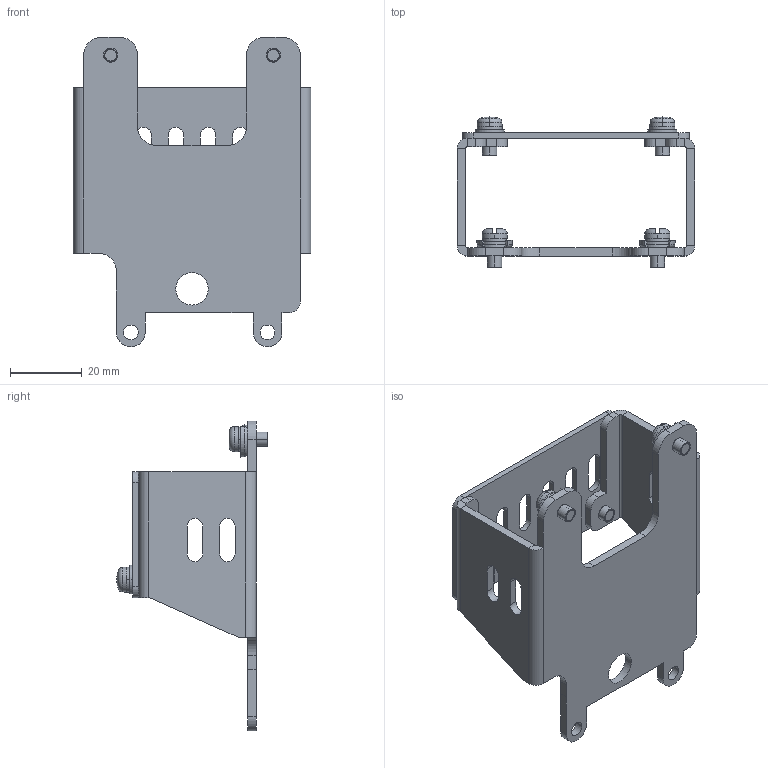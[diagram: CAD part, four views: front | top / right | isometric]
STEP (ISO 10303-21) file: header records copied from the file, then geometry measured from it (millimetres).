
FILE_DESCRIPTION((''),'2;1');
FILE_NAME('ZHZ-GA50V1_ASM','2020-10-19T',('anm'),('YASKAWA ELECTRIC CORCORATION'),'PRO/ENGINEER BY PARAMETRIC TECHNOLOGY CORPORATION, 2015440','PRO/ENGINEER BY PARAMETRIC TECHNOLOGY CORPORATION, 2015440','');
FILE_SCHEMA(('CONFIG_CONTROL_DESIGN'));
Length unit declared in the file: millimetre
Products named in the file (6): 400-124-985; 400-127-195; MS15_M4X8; SCAT41077-2; SCAT41279-1; ZHZ-GA50V1_ASM
Assembly tree (8 placements, depth 2):
  ZHZ-GA50V1_ASM
    400-124-985
    400-127-195
    MS15_M4X8  x2
    SCAT41077-2  x2
    SCAT41279-1  x2
Bounding box: 66 x 41.8 x 86 mm (x, y, z)
Volume: 18836 mm3; surface area: 21368.4 mm2
Topology: 8 solids, 20 shells, 378 faces, 952 edges, 622 vertices
Faces by surface type: plane 198, cylinder 150, torus 20, cone 6, sphere 4
Entity records: 9169 total; most frequent: CARTESIAN_POINT 1680, DIRECTION 1602, ORIENTED_EDGE 1448, EDGE_CURVE 740, AXIS2_PLACEMENT_3D 576, VERTEX_POINT 483, VECTOR 450, LINE 450
